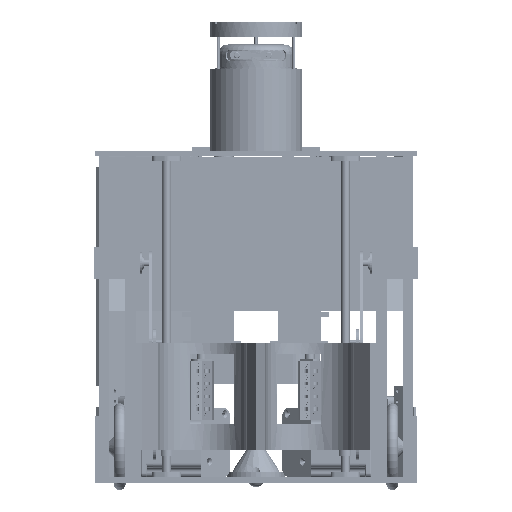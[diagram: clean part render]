
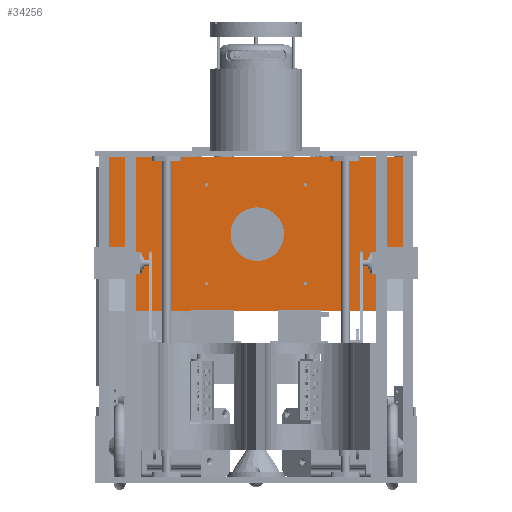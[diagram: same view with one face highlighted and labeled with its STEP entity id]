
A CAD part, front view. The second image highlights one B-rep face of the part: STEP entity #34256.
In plain terms, the highlighted planar face has unit normal (0, -1, 0).
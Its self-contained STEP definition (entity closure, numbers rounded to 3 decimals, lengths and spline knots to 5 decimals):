
#2667=CIRCLE('',#39542,0.0016);
#2669=CIRCLE('',#39545,0.0016);
#2671=CIRCLE('',#39548,0.0016);
#2673=CIRCLE('',#39551,0.0016);
#2675=CIRCLE('',#39554,0.0016);
#2677=CIRCLE('',#39557,0.0016);
#2679=CIRCLE('',#39560,0.0016);
#2681=CIRCLE('',#39563,0.0016);
#2683=CIRCLE('',#39566,0.0016);
#2685=CIRCLE('',#39569,0.0016);
#2687=CIRCLE('',#39572,0.025);
#2689=CIRCLE('',#39575,0.0016);
#2691=CIRCLE('',#39578,0.0016);
#2693=CIRCLE('',#39581,0.0016);
#2695=CIRCLE('',#39584,0.0016);
#2697=CIRCLE('',#39587,0.0016);
#2699=CIRCLE('',#39590,0.0016);
#12168=ORIENTED_EDGE('',*,*,#16732,.T.);
#12169=ORIENTED_EDGE('',*,*,#16730,.T.);
#12170=ORIENTED_EDGE('',*,*,#16728,.T.);
#12171=ORIENTED_EDGE('',*,*,#16726,.T.);
#12172=ORIENTED_EDGE('',*,*,#16724,.F.);
#12173=ORIENTED_EDGE('',*,*,#16722,.T.);
#12174=ORIENTED_EDGE('',*,*,#16720,.F.);
#12175=ORIENTED_EDGE('',*,*,#16718,.F.);
#12176=ORIENTED_EDGE('',*,*,#16716,.T.);
#12177=ORIENTED_EDGE('',*,*,#16714,.T.);
#12178=ORIENTED_EDGE('',*,*,#16712,.F.);
#12179=ORIENTED_EDGE('',*,*,#16710,.F.);
#12180=ORIENTED_EDGE('',*,*,#16708,.F.);
#12181=ORIENTED_EDGE('',*,*,#16706,.F.);
#12182=ORIENTED_EDGE('',*,*,#16704,.T.);
#12183=ORIENTED_EDGE('',*,*,#16702,.F.);
#12184=ORIENTED_EDGE('',*,*,#16700,.F.);
#12185=ORIENTED_EDGE('',*,*,#16692,.F.);
#12186=ORIENTED_EDGE('',*,*,#16696,.T.);
#12187=ORIENTED_EDGE('',*,*,#16699,.T.);
#12188=ORIENTED_EDGE('',*,*,#16735,.F.);
#16692=EDGE_CURVE('',#19855,#19856,#22633,.T.);
#16696=EDGE_CURVE('',#19855,#19858,#22637,.T.);
#16699=EDGE_CURVE('',#19858,#19860,#22640,.T.);
#16700=EDGE_CURVE('',#19861,#19861,#2667,.T.);
#16702=EDGE_CURVE('',#19863,#19863,#2669,.T.);
#16704=EDGE_CURVE('',#19865,#19865,#2671,.T.);
#16706=EDGE_CURVE('',#19867,#19867,#2673,.T.);
#16708=EDGE_CURVE('',#19869,#19869,#2675,.T.);
#16710=EDGE_CURVE('',#19871,#19871,#2677,.T.);
#16712=EDGE_CURVE('',#19873,#19873,#2679,.T.);
#16714=EDGE_CURVE('',#19875,#19875,#2681,.T.);
#16716=EDGE_CURVE('',#19877,#19877,#2683,.T.);
#16718=EDGE_CURVE('',#19879,#19879,#2685,.T.);
#16720=EDGE_CURVE('',#19881,#19881,#2687,.T.);
#16722=EDGE_CURVE('',#19883,#19883,#2689,.T.);
#16724=EDGE_CURVE('',#19885,#19885,#2691,.T.);
#16726=EDGE_CURVE('',#19887,#19887,#2693,.T.);
#16728=EDGE_CURVE('',#19889,#19889,#2695,.T.);
#16730=EDGE_CURVE('',#19891,#19891,#2697,.T.);
#16732=EDGE_CURVE('',#19893,#19893,#2699,.T.);
#16735=EDGE_CURVE('',#19856,#19860,#22642,.T.);
#19855=VERTEX_POINT('',#64149);
#19856=VERTEX_POINT('',#64151);
#19858=VERTEX_POINT('',#64157);
#19860=VERTEX_POINT('',#64163);
#19861=VERTEX_POINT('',#64167);
#19863=VERTEX_POINT('',#64172);
#19865=VERTEX_POINT('',#64177);
#19867=VERTEX_POINT('',#64182);
#19869=VERTEX_POINT('',#64187);
#19871=VERTEX_POINT('',#64192);
#19873=VERTEX_POINT('',#64197);
#19875=VERTEX_POINT('',#64202);
#19877=VERTEX_POINT('',#64207);
#19879=VERTEX_POINT('',#64212);
#19881=VERTEX_POINT('',#64217);
#19883=VERTEX_POINT('',#64222);
#19885=VERTEX_POINT('',#64227);
#19887=VERTEX_POINT('',#64232);
#19889=VERTEX_POINT('',#64237);
#19891=VERTEX_POINT('',#64242);
#19893=VERTEX_POINT('',#64247);
#22633=LINE('',#64150,#25389);
#22637=LINE('',#64158,#25393);
#22640=LINE('',#64164,#25396);
#22642=LINE('',#64252,#25398);
#25389=VECTOR('',#49032,1.);
#25393=VECTOR('',#49038,1.);
#25396=VECTOR('',#49043,1.);
#25398=VECTOR('',#49149,1.);
#28274=EDGE_LOOP('',(#12168));
#28275=EDGE_LOOP('',(#12169));
#28276=EDGE_LOOP('',(#12170));
#28277=EDGE_LOOP('',(#12171));
#28278=EDGE_LOOP('',(#12172));
#28279=EDGE_LOOP('',(#12173));
#28280=EDGE_LOOP('',(#12174));
#28281=EDGE_LOOP('',(#12175));
#28282=EDGE_LOOP('',(#12176));
#28283=EDGE_LOOP('',(#12177));
#28284=EDGE_LOOP('',(#12178));
#28285=EDGE_LOOP('',(#12179));
#28286=EDGE_LOOP('',(#12180));
#28287=EDGE_LOOP('',(#12181));
#28288=EDGE_LOOP('',(#12182));
#28289=EDGE_LOOP('',(#12183));
#28290=EDGE_LOOP('',(#12184));
#28291=EDGE_LOOP('',(#12185,#12186,#12187,#12188));
#31181=FACE_BOUND('',#28274,.T.);
#31182=FACE_BOUND('',#28275,.T.);
#31183=FACE_BOUND('',#28276,.T.);
#31184=FACE_BOUND('',#28277,.T.);
#31185=FACE_BOUND('',#28278,.T.);
#31186=FACE_BOUND('',#28279,.T.);
#31187=FACE_BOUND('',#28280,.T.);
#31188=FACE_BOUND('',#28281,.T.);
#31189=FACE_BOUND('',#28282,.T.);
#31190=FACE_BOUND('',#28283,.T.);
#31191=FACE_BOUND('',#28284,.T.);
#31192=FACE_BOUND('',#28285,.T.);
#31193=FACE_BOUND('',#28286,.T.);
#31194=FACE_BOUND('',#28287,.T.);
#31195=FACE_BOUND('',#28288,.T.);
#31196=FACE_BOUND('',#28289,.T.);
#31197=FACE_BOUND('',#28290,.T.);
#31198=FACE_BOUND('',#28291,.T.);
#32322=PLANE('',#39593);
#34256=ADVANCED_FACE('',(#31181,#31182,#31183,#31184,#31185,#31186,#31187,
#31188,#31189,#31190,#31191,#31192,#31193,#31194,#31195,#31196,#31197,#31198),
#32322,.T.);
#39542=AXIS2_PLACEMENT_3D('',#64166,#49046,#49047);
#39545=AXIS2_PLACEMENT_3D('',#64171,#49052,#49053);
#39548=AXIS2_PLACEMENT_3D('',#64176,#49058,#49059);
#39551=AXIS2_PLACEMENT_3D('',#64181,#49064,#49065);
#39554=AXIS2_PLACEMENT_3D('',#64186,#49070,#49071);
#39557=AXIS2_PLACEMENT_3D('',#64191,#49076,#49077);
#39560=AXIS2_PLACEMENT_3D('',#64196,#49082,#49083);
#39563=AXIS2_PLACEMENT_3D('',#64201,#49088,#49089);
#39566=AXIS2_PLACEMENT_3D('',#64206,#49094,#49095);
#39569=AXIS2_PLACEMENT_3D('',#64211,#49100,#49101);
#39572=AXIS2_PLACEMENT_3D('',#64216,#49106,#49107);
#39575=AXIS2_PLACEMENT_3D('',#64221,#49112,#49113);
#39578=AXIS2_PLACEMENT_3D('',#64226,#49118,#49119);
#39581=AXIS2_PLACEMENT_3D('',#64231,#49124,#49125);
#39584=AXIS2_PLACEMENT_3D('',#64236,#49130,#49131);
#39587=AXIS2_PLACEMENT_3D('',#64241,#49136,#49137);
#39590=AXIS2_PLACEMENT_3D('',#64246,#49142,#49143);
#39593=AXIS2_PLACEMENT_3D('',#64253,#49150,#49151);
#49032=DIRECTION('',(1.,0.,0.));
#49038=DIRECTION('',(0.,0.,-1.));
#49043=DIRECTION('',(1.,0.,0.));
#49046=DIRECTION('',(0.,-1.,0.));
#49047=DIRECTION('',(0.,0.,-1.));
#49052=DIRECTION('',(0.,-1.,0.));
#49053=DIRECTION('',(0.,0.,-1.));
#49058=DIRECTION('',(0.,1.,0.));
#49059=DIRECTION('',(0.,0.,-1.));
#49064=DIRECTION('',(0.,-1.,0.));
#49065=DIRECTION('',(0.,0.,-1.));
#49070=DIRECTION('',(0.,-1.,0.));
#49071=DIRECTION('',(0.,0.,-1.));
#49076=DIRECTION('',(0.,-1.,0.));
#49077=DIRECTION('',(0.,0.,-1.));
#49082=DIRECTION('',(0.,-1.,0.));
#49083=DIRECTION('',(0.,0.,-1.));
#49088=DIRECTION('',(0.,1.,0.));
#49089=DIRECTION('',(0.,0.,-1.));
#49094=DIRECTION('',(0.,1.,0.));
#49095=DIRECTION('',(0.,0.,-1.));
#49100=DIRECTION('',(0.,-1.,0.));
#49101=DIRECTION('',(0.,0.,-1.));
#49106=DIRECTION('',(0.,-1.,0.));
#49107=DIRECTION('',(0.,0.,-1.));
#49112=DIRECTION('',(0.,1.,0.));
#49113=DIRECTION('',(0.,0.,-1.));
#49118=DIRECTION('',(0.,-1.,0.));
#49119=DIRECTION('',(0.,0.,-1.));
#49124=DIRECTION('',(0.,1.,0.));
#49125=DIRECTION('',(0.,0.,-1.));
#49130=DIRECTION('',(0.,1.,0.));
#49131=DIRECTION('',(0.,0.,-1.));
#49136=DIRECTION('',(0.,1.,0.));
#49137=DIRECTION('',(0.,0.,-1.));
#49142=DIRECTION('',(0.,1.,0.));
#49143=DIRECTION('',(0.,0.,-1.));
#49149=DIRECTION('',(0.,0.,-1.));
#49150=DIRECTION('',(0.,-1.,0.));
#49151=DIRECTION('',(1.,0.,0.));
#64149=CARTESIAN_POINT('',(-0.147,-0.003,0.072));
#64150=CARTESIAN_POINT('',(0.,-0.003,0.072));
#64151=CARTESIAN_POINT('',(0.147,-0.003,0.072));
#64157=CARTESIAN_POINT('',(-0.147,-0.003,-0.072));
#64158=CARTESIAN_POINT('',(-0.147,-0.003,0.));
#64163=CARTESIAN_POINT('',(0.147,-0.003,-0.072));
#64164=CARTESIAN_POINT('',(0.,-0.003,-0.072));
#64166=CARTESIAN_POINT('',(-0.142,-0.003,0.067));
#64167=CARTESIAN_POINT('',(-0.142,-0.003,0.0654));
#64171=CARTESIAN_POINT('',(-0.117,-0.003,0.067));
#64172=CARTESIAN_POINT('',(-0.117,-0.003,0.0654));
#64176=CARTESIAN_POINT('',(0.142,-0.003,0.067));
#64177=CARTESIAN_POINT('',(0.142,-0.003,0.0654));
#64181=CARTESIAN_POINT('',(-0.142,-0.003,-0.052));
#64182=CARTESIAN_POINT('',(-0.142,-0.003,-0.0536));
#64186=CARTESIAN_POINT('',(-0.142,-0.003,-0.027));
#64187=CARTESIAN_POINT('',(-0.142,-0.003,-0.0286));
#64191=CARTESIAN_POINT('',(-0.117,-0.003,-0.027));
#64192=CARTESIAN_POINT('',(-0.117,-0.003,-0.0286));
#64196=CARTESIAN_POINT('',(-0.117,-0.003,-0.052));
#64197=CARTESIAN_POINT('',(-0.117,-0.003,-0.0536));
#64201=CARTESIAN_POINT('',(0.142,-0.003,-0.052));
#64202=CARTESIAN_POINT('',(0.142,-0.003,-0.0536));
#64206=CARTESIAN_POINT('',(0.117,-0.003,-0.027));
#64207=CARTESIAN_POINT('',(0.117,-0.003,-0.0286));
#64211=CARTESIAN_POINT('',(-0.046,-0.003,0.046));
#64212=CARTESIAN_POINT('',(-0.046,-0.003,0.0444));
#64216=CARTESIAN_POINT('',(0.00115,-0.003,0.));
#64217=CARTESIAN_POINT('',(0.00115,-0.003,-0.025));
#64221=CARTESIAN_POINT('',(-0.046,-0.003,-0.046));
#64222=CARTESIAN_POINT('',(-0.046,-0.003,-0.0476));
#64226=CARTESIAN_POINT('',(0.046,-0.003,-0.046));
#64227=CARTESIAN_POINT('',(0.046,-0.003,-0.0476));
#64231=CARTESIAN_POINT('',(0.046,-0.003,0.046));
#64232=CARTESIAN_POINT('',(0.046,-0.003,0.0444));
#64236=CARTESIAN_POINT('',(0.142,-0.003,-0.027));
#64237=CARTESIAN_POINT('',(0.142,-0.003,-0.0286));
#64241=CARTESIAN_POINT('',(0.117,-0.003,-0.052));
#64242=CARTESIAN_POINT('',(0.117,-0.003,-0.0536));
#64246=CARTESIAN_POINT('',(0.117,-0.003,0.067));
#64247=CARTESIAN_POINT('',(0.117,-0.003,0.0654));
#64252=CARTESIAN_POINT('',(0.147,-0.003,0.));
#64253=CARTESIAN_POINT('',(0.,-0.003,0.));
